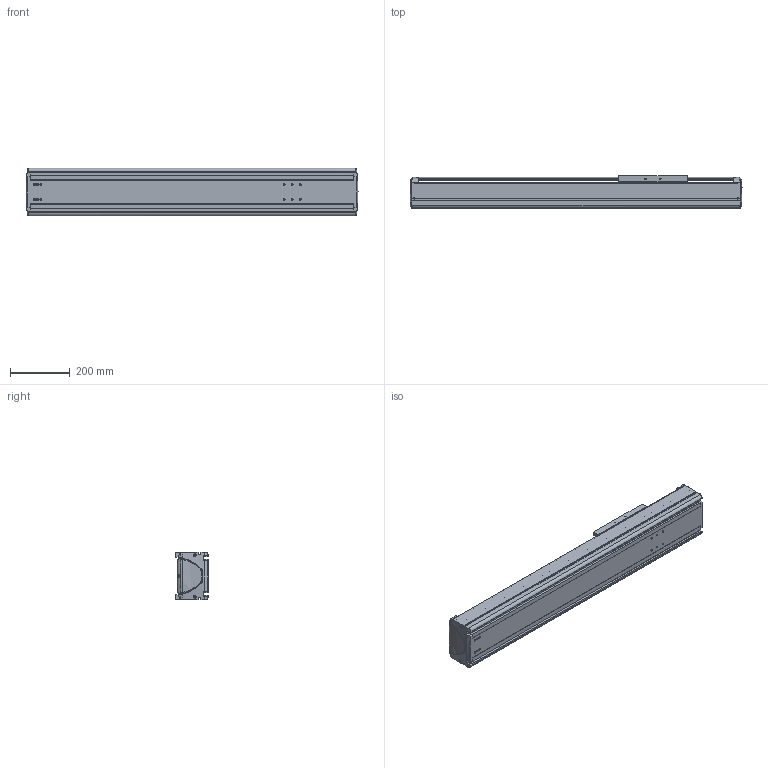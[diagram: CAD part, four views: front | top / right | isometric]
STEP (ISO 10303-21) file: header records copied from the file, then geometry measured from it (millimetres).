
FILE_DESCRIPTION((''),'2;1');
FILE_NAME('BE50G-ST-L_B-65_IGS_PRT','2017-06-18T',(' '),(''),'PRO/ENGINEER BY PARAMETRIC TECHNOLOGY CORPORATION, 2015030','PRO/ENGINEER BY PARAMETRIC TECHNOLOGY CORPORATION, 2015030','');
FILE_SCHEMA(('CONFIG_CONTROL_DESIGN'));
Length unit declared in the file: millimetre
Products named in the file (1): BE50G-ST-L_B-65_IGS_PRT
Bounding box: 1114.98 x 110 x 160 mm (x, y, z)
Volume: 5194010.1 mm3; surface area: 1744358.6 mm2
Topology: 2 solids, 81 shells, 1606 faces, 4263 edges, 2726 vertices
Faces by surface type: cylinder 688, plane 619, bspline 102, torus 87, cone 70, sphere 40
Entity records: 55290 total; most frequent: CARTESIAN_POINT 15911, ORIENTED_EDGE 8128, DIRECTION 8056, EDGE_CURVE 4222, AXIS2_PLACEMENT_3D 2996, VERTEX_POINT 2715, VECTOR 2064, LINE 2064
